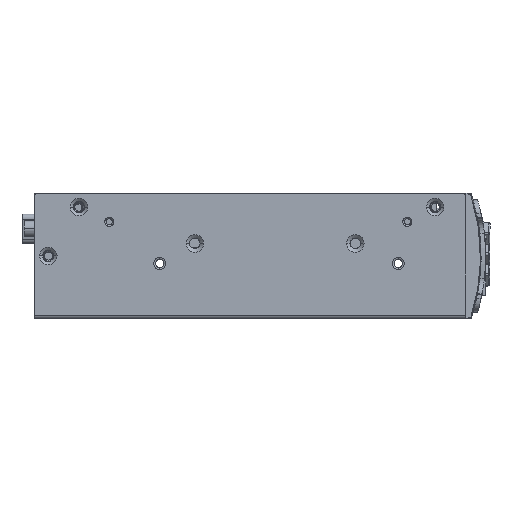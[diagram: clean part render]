
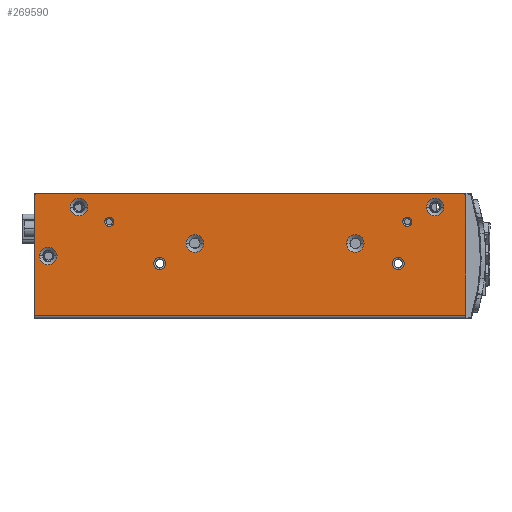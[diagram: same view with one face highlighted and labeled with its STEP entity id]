
A CAD part, left-side view. The second image highlights one B-rep face of the part: STEP entity #269590.
In plain terms, the highlighted planar face has unit normal (-1, 0, 0).
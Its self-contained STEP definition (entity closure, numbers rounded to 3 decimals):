
#249460=CARTESIAN_POINT('',(321.037,53.752,41.));
#249470=VERTEX_POINT('',#249460);
#249500=CARTESIAN_POINT('',(321.037,169.939,41.));
#249510=DIRECTION('',(0.,1.,0.));
#249520=VECTOR('',#249510,1.);
#249530=LINE('',#249500,#249520);
#249540=CARTESIAN_POINT('',(321.037,192.752,41.));
#249550=VERTEX_POINT('',#249540);
#249560=EDGE_CURVE('',#249470,#249550,#249530,.T.);
#253050=CARTESIAN_POINT('',(321.037,193.752,1.));
#253060=DIRECTION('',(0.,0.,-1.));
#253070=VECTOR('',#253060,1.);
#253080=LINE('',#253050,#253070);
#253090=CARTESIAN_POINT('',(321.037,193.752,40.));
#253100=VERTEX_POINT('',#253090);
#253110=CARTESIAN_POINT('',(321.037,193.752,1.1));
#253120=VERTEX_POINT('',#253110);
#253130=EDGE_CURVE('',#253100,#253120,#253080,.T.);
#254460=CARTESIAN_POINT('',(321.037,52.752,1.1));
#254470=VERTEX_POINT('',#254460);
#254570=CARTESIAN_POINT('',(321.037,192.352,1.1));
#254580=DIRECTION('',(0.,-1.,0.));
#254590=VECTOR('',#254580,1.);
#254600=LINE('',#254570,#254590);
#254610=EDGE_CURVE('',#253120,#254470,#254600,.T.);
#262530=CARTESIAN_POINT('',(321.037,53.752,40.));
#262540=DIRECTION('',(1.,0.,-0.));
#262550=DIRECTION('',(0.,1.,0.));
#262560=AXIS2_PLACEMENT_3D('',#262530,#262540,#262550);
#262570=CIRCLE('',#262560,1.);
#262580=CARTESIAN_POINT('',(321.037,52.752,40.));
#262590=VERTEX_POINT('',#262580);
#262600=EDGE_CURVE('',#249470,#262590,#262570,.T.);
#262940=CARTESIAN_POINT('',(321.037,192.752,40.));
#262950=DIRECTION('',(1.,0.,0.));
#262960=DIRECTION('',(0.,1.,0.));
#262970=AXIS2_PLACEMENT_3D('',#262940,#262950,#262960);
#262980=CIRCLE('',#262970,1.);
#262990=EDGE_CURVE('',#253100,#249550,#262980,.T.);
#268060=CARTESIAN_POINT('',(321.037,74.852,20.275));
#268070=DIRECTION('',(-1.,0.,0.));
#268080=DIRECTION('',(0.,0.,1.));
#268090=AXIS2_PLACEMENT_3D('',#268060,#268070,#268080);
#268100=PLANE('',#268090);
#268110=CARTESIAN_POINT('',(321.037,71.856,31.7));
#268120=DIRECTION('',(1.,0.,-0.));
#268130=DIRECTION('',(0.,1.,0.));
#268140=AXIS2_PLACEMENT_3D('',#268110,#268120,#268130);
#268150=CIRCLE('',#268140,1.5);
#268160=CARTESIAN_POINT('',(321.037,73.356,31.7));
#268170=VERTEX_POINT('',#268160);
#268180=CARTESIAN_POINT('',(321.037,70.356,31.7));
#268190=VERTEX_POINT('',#268180);
#268200=EDGE_CURVE('',#268170,#268190,#268150,.T.);
#268210=ORIENTED_EDGE('',*,*,#268200,.T.);
#268220=EDGE_CURVE('',#268190,#268170,#268150,.T.);
#268230=ORIENTED_EDGE('',*,*,#268220,.T.);
#268240=EDGE_LOOP('',(#268230,#268210));
#268250=FACE_BOUND('',#268240,.T.);
#268260=CARTESIAN_POINT('',(321.037,189.252,20.5));
#268270=DIRECTION('',(1.,0.,-0.));
#268280=DIRECTION('',(0.,1.,0.));
#268290=AXIS2_PLACEMENT_3D('',#268260,#268270,#268280);
#268300=CIRCLE('',#268290,2.85);
#268310=CARTESIAN_POINT('',(321.037,192.102,20.5));
#268320=VERTEX_POINT('',#268310);
#268330=CARTESIAN_POINT('',(321.037,186.402,20.5));
#268340=VERTEX_POINT('',#268330);
#268350=EDGE_CURVE('',#268320,#268340,#268300,.T.);
#268360=ORIENTED_EDGE('',*,*,#268350,.T.);
#268370=EDGE_CURVE('',#268340,#268320,#268300,.T.);
#268380=ORIENTED_EDGE('',*,*,#268370,.T.);
#268390=EDGE_LOOP('',(#268380,#268360));
#268400=FACE_BOUND('',#268390,.T.);
#268410=CARTESIAN_POINT('',(321.037,169.304,31.7));
#268420=DIRECTION('',(1.,0.,-0.));
#268430=DIRECTION('',(0.,1.,0.));
#268440=AXIS2_PLACEMENT_3D('',#268410,#268420,#268430);
#268450=CIRCLE('',#268440,1.5);
#268460=CARTESIAN_POINT('',(321.037,170.804,31.7));
#268470=VERTEX_POINT('',#268460);
#268480=CARTESIAN_POINT('',(321.037,167.804,31.7));
#268490=VERTEX_POINT('',#268480);
#268500=EDGE_CURVE('',#268470,#268490,#268450,.T.);
#268510=ORIENTED_EDGE('',*,*,#268500,.T.);
#268520=EDGE_CURVE('',#268490,#268470,#268450,.T.);
#268530=ORIENTED_EDGE('',*,*,#268520,.T.);
#268540=EDGE_LOOP('',(#268530,#268510));
#268550=FACE_BOUND('',#268540,.T.);
#268560=CARTESIAN_POINT('',(321.037,141.352,24.6
));
#268570=DIRECTION('',(1.,0.,-0.));
#268580=DIRECTION('',(0.,1.,0.));
#268590=AXIS2_PLACEMENT_3D('',#268560,#268570,#268580);
#268600=CIRCLE('',#268590,2.85);
#268610=CARTESIAN_POINT('',(321.037,144.202,24.6
));
#268620=VERTEX_POINT('',#268610);
#268630=CARTESIAN_POINT('',(321.037,138.502,24.6
));
#268640=VERTEX_POINT('',#268630);
#268650=EDGE_CURVE('',#268620,#268640,#268600,.T.);
#268660=ORIENTED_EDGE('',*,*,#268650,.T.);
#268670=EDGE_CURVE('',#268640,#268620,#268600,.T.);
#268680=ORIENTED_EDGE('',*,*,#268670,.T.);
#268690=EDGE_LOOP('',(#268680,#268660));
#268700=FACE_BOUND('',#268690,.T.);
#268710=CARTESIAN_POINT('',(321.037,152.852,18.05));
#268720=DIRECTION('',(-1.,0.,0.));
#268730=DIRECTION('',(0.,0.,1.));
#268740=AXIS2_PLACEMENT_3D('',#268710,#268720,#268730);
#268750=CIRCLE('',#268740,1.925);
#268760=CARTESIAN_POINT('',(321.037,152.852,19.975));
#268770=VERTEX_POINT('',#268760);
#268780=CARTESIAN_POINT('',(321.037,152.852,16.125));
#268790=VERTEX_POINT('',#268780);
#268800=EDGE_CURVE('',#268770,#268790,#268750,.T.);
#268810=ORIENTED_EDGE('',*,*,#268800,.F.);
#268820=EDGE_CURVE('',#268790,#268770,#268750,.T.);
#268830=ORIENTED_EDGE('',*,*,#268820,.F.);
#268840=EDGE_LOOP('',(#268830,#268810));
#268850=FACE_BOUND('',#268840,.T.);
#268860=CARTESIAN_POINT('',(321.037,74.852,18.05));
#268870=DIRECTION('',(-1.,0.,0.));
#268880=DIRECTION('',(0.,0.,1.));
#268890=AXIS2_PLACEMENT_3D('',#268860,#268870,#268880);
#268900=CIRCLE('',#268890,1.925);
#268910=CARTESIAN_POINT('',(321.037,74.852,19.975));
#268920=VERTEX_POINT('',#268910);
#268930=CARTESIAN_POINT('',(321.037,74.852,16.125));
#268940=VERTEX_POINT('',#268930);
#268950=EDGE_CURVE('',#268920,#268940,#268900,.T.);
#268960=ORIENTED_EDGE('',*,*,#268950,.F.);
#268970=EDGE_CURVE('',#268940,#268920,#268900,.T.);
#268980=ORIENTED_EDGE('',*,*,#268970,.F.);
#268990=EDGE_LOOP('',(#268980,#268960));
#269000=FACE_BOUND('',#268990,.T.);
#269010=CARTESIAN_POINT('',(321.037,88.852,24.6
));
#269020=DIRECTION('',(1.,0.,-0.));
#269030=DIRECTION('',(0.,1.,0.));
#269040=AXIS2_PLACEMENT_3D('',#269010,#269020,#269030);
#269050=CIRCLE('',#269040,2.85);
#269060=CARTESIAN_POINT('',(321.037,91.702,24.6
));
#269070=VERTEX_POINT('',#269060);
#269080=CARTESIAN_POINT('',(321.037,86.002,24.6
));
#269090=VERTEX_POINT('',#269080);
#269100=EDGE_CURVE('',#269070,#269090,#269050,.T.);
#269110=ORIENTED_EDGE('',*,*,#269100,.T.);
#269120=EDGE_CURVE('',#269090,#269070,#269050,.T.);
#269130=ORIENTED_EDGE('',*,*,#269120,.T.);
#269140=EDGE_LOOP('',(#269130,#269110));
#269150=FACE_BOUND('',#269140,.T.);
#269160=CARTESIAN_POINT('',(321.037,62.752,36.5));
#269170=DIRECTION('',(1.,0.,-0.));
#269180=DIRECTION('',(0.,1.,0.));
#269190=AXIS2_PLACEMENT_3D('',#269160,#269170,#269180);
#269200=CIRCLE('',#269190,2.85);
#269210=CARTESIAN_POINT('',(321.037,65.602,36.5));
#269220=VERTEX_POINT('',#269210);
#269230=CARTESIAN_POINT('',(321.037,59.902,36.5));
#269240=VERTEX_POINT('',#269230);
#269250=EDGE_CURVE('',#269220,#269240,#269200,.T.);
#269260=ORIENTED_EDGE('',*,*,#269250,.T.);
#269270=EDGE_CURVE('',#269240,#269220,#269200,.T.);
#269280=ORIENTED_EDGE('',*,*,#269270,.T.);
#269290=EDGE_LOOP('',(#269280,#269260));
#269300=FACE_BOUND('',#269290,.T.);
#269310=CARTESIAN_POINT('',(321.037,179.252,36.5));
#269320=DIRECTION('',(1.,0.,-0.));
#269330=DIRECTION('',(0.,1.,0.));
#269340=AXIS2_PLACEMENT_3D('',#269310,#269320,#269330);
#269350=CIRCLE('',#269340,2.85);
#269360=CARTESIAN_POINT('',(321.037,182.102,36.5));
#269370=VERTEX_POINT('',#269360);
#269380=CARTESIAN_POINT('',(321.037,176.402,36.5));
#269390=VERTEX_POINT('',#269380);
#269400=EDGE_CURVE('',#269370,#269390,#269350,.T.);
#269410=ORIENTED_EDGE('',*,*,#269400,.T.);
#269420=EDGE_CURVE('',#269390,#269370,#269350,.T.);
#269430=ORIENTED_EDGE('',*,*,#269420,.T.);
#269440=EDGE_LOOP('',(#269430,#269410));
#269450=FACE_BOUND('',#269440,.T.);
#269460=ORIENTED_EDGE('',*,*,#262990,.F.);
#269470=ORIENTED_EDGE('',*,*,#249560,.T.);
#269480=ORIENTED_EDGE('',*,*,#262600,.F.);
#269490=CARTESIAN_POINT('',(321.037,52.752,1.));
#269500=DIRECTION('',(0.,0.,-1.));
#269510=VECTOR('',#269500,1.);
#269520=LINE('',#269490,#269510);
#269530=EDGE_CURVE('',#262590,#254470,#269520,.T.);
#269540=ORIENTED_EDGE('',*,*,#269530,.F.);
#269550=ORIENTED_EDGE('',*,*,#254610,.T.);
#269560=ORIENTED_EDGE('',*,*,#253130,.T.);
#269570=EDGE_LOOP('',(#269560,#269550,#269540,#269480,#269470,#269460));
#269580=FACE_OUTER_BOUND('',#269570,.T.);
#269590=ADVANCED_FACE('',(#268250,#268400,#268550,#268700,#268850,
#269000,#269150,#269300,#269450,#269580),#268100,.T.);
